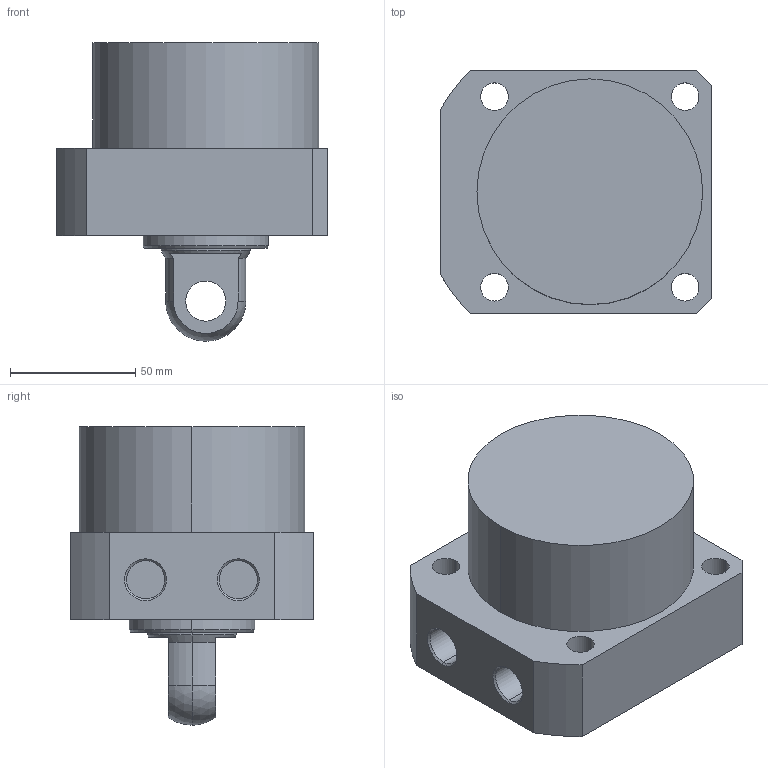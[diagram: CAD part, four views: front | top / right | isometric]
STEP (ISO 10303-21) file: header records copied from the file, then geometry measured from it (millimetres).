
FILE_DESCRIPTION (( 'STEP AP203' ), '1' );
FILE_NAME ('CLLR-090CP-020.STEP', '2019-12-19T03:20:42', ( '' ), ( '' ), 'SwSTEP 2.0', 'SolidWorks 2015', '' );
FILE_SCHEMA (( 'CONFIG_CONTROL_DESIGN' ));
Length unit declared in the file: millimetre
Products named in the file (1): CLLR-090CP-020
Bounding box: 108 x 97 x 119 mm (x, y, z)
Volume: 629664.5 mm3; surface area: 56574.8 mm2
Topology: 1 solids, 1 shells, 57 faces, 135 edges, 87 vertices
Faces by surface type: cylinder 29, plane 18, cone 8, sphere 2
Entity records: 1770 total; most frequent: DIRECTION 319, CARTESIAN_POINT 292, ORIENTED_EDGE 270, EDGE_CURVE 135, AXIS2_PLACEMENT_3D 130, VERTEX_POINT 87, EDGE_LOOP 74, CIRCLE 72
